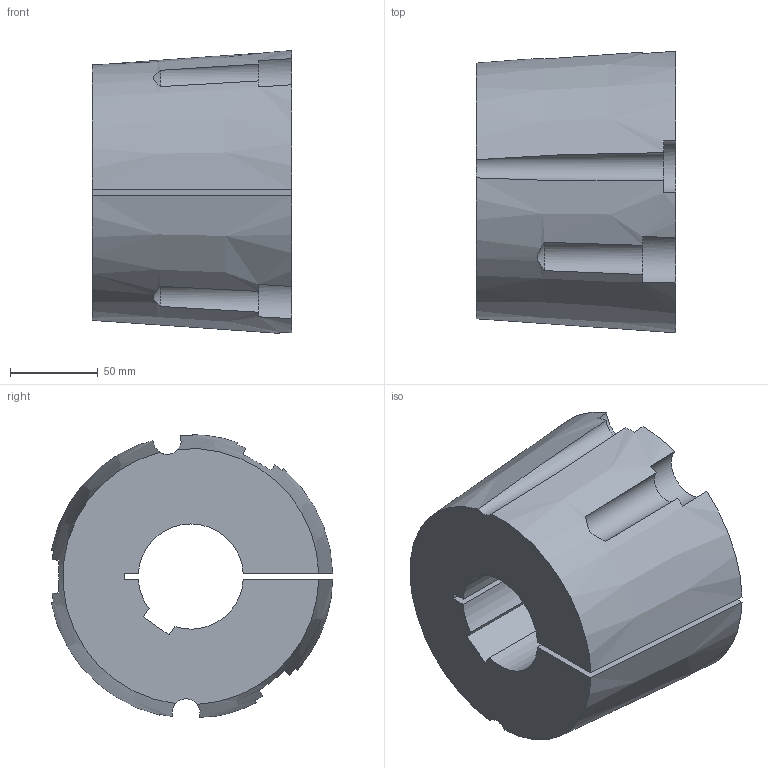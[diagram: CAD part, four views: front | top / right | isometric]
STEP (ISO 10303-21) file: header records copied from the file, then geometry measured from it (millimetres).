
FILE_DESCRIPTION( ( 'STEP AP203' ), '1' );
FILE_NAME( 'D:/export/antriebselemente/spannbuchsen_und_spannsaetze/taper-spannbuchsen_1008_bis_5050/taper-spannbuchsen_62251560Isometric_250.stp', '2018-12-11T11:11:35', ( '' ), ( '' ), ' ', 'PARTsolutions', ' ' );
FILE_SCHEMA( ( 'CONFIG_CONTROL_DESIGN' ) );
Length unit declared in the file: millimetre
Products named in the file (1): _taper-spannbuchsen_62251560
Bounding box: 114 x 160.6 x 161.35 mm (x, y, z)
Volume: 1702122.8 mm3; surface area: 124480.6 mm2
Topology: 1 solids, 1 shells, 34 faces, 96 edges, 64 vertices
Faces by surface type: plane 15, cylinder 13, cone 6
Entity records: 1314 total; most frequent: CARTESIAN_POINT 390, ORIENTED_EDGE 192, DIRECTION 186, EDGE_CURVE 96, AXIS2_PLACEMENT_3D 80, VERTEX_POINT 64, CIRCLE 45, ADVANCED_FACE 34
